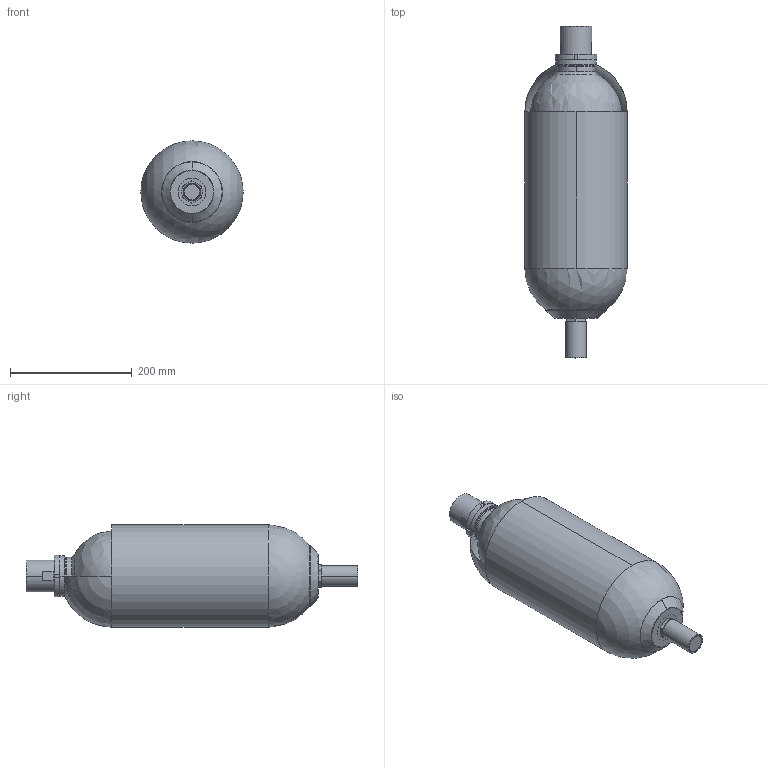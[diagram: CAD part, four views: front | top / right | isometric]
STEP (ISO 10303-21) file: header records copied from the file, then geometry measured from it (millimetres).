
FILE_DESCRIPTION((''),'2;1');
FILE_NAME('EHV_6_350_90.stp','2011-02-28T16:44:55',(''),(''),'Mechanical Desktop 2009','Mechanical Desktop 2009',', , ');
FILE_SCHEMA(('CONFIG_CONTROL_DESIGN'));
Length unit declared in the file: millimetre
Products named in the file (20): DESSIN9; AD108574-01125; CA108564-00190(1); CA108564-00190; BC108570-00220; BE100016-00200(1); BE100016-00200; BM108569-00200; CB108568-00200(1); CB108568-00200; EC100987-00200(1); EC100987-00200; EC102958-00200(1); EC102958-00200; BP102851-00200; BOUCHON DE PROTECTION; BOUCHON PLASTIQUE; PF108572-05200(1); PF108572-05200; GABARIT
Assembly tree (19 placements, depth 6):
  DESSIN9
    AD108574-01125
      CA108564-00190(1)
        CA108564-00190
      BC108570-00220
        BE100016-00200(1)
          BE100016-00200
        BM108569-00200
          CB108568-00200(1)
            CB108568-00200
        EC100987-00200(1)
          EC100987-00200
      EC102958-00200(1)
        EC102958-00200
      BP102851-00200
        BOUCHON DE PROTECTION
        BOUCHON PLASTIQUE
      PF108572-05200(1)
        PF108572-05200
    GABARIT
Bounding box: 168.3 x 545.9 x 168.3 mm (x, y, z)
Volume: 713593.6 mm3; surface area: 542191.9 mm2
Topology: 8 solids, 8 shells, 199 faces, 488 edges, 302 vertices
Faces by surface type: cylinder 76, plane 56, cone 46, bspline 12, torus 6, sphere 3
Entity records: 6797 total; most frequent: CARTESIAN_POINT 1725, DIRECTION 1114, ORIENTED_EDGE 922, AXIS2_PLACEMENT_3D 470, EDGE_CURVE 461, VERTEX_POINT 295, CIRCLE 263, EDGE_LOOP 242
